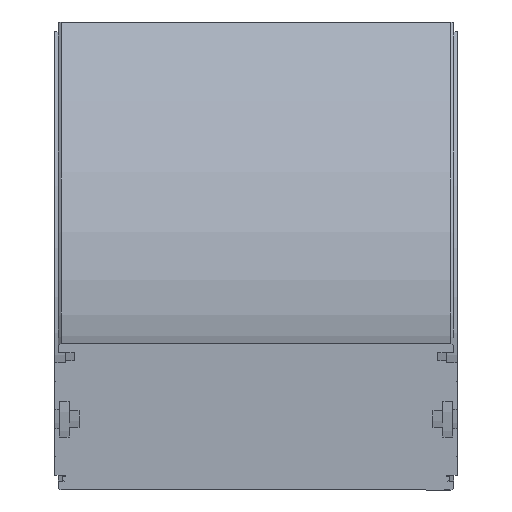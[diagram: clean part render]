
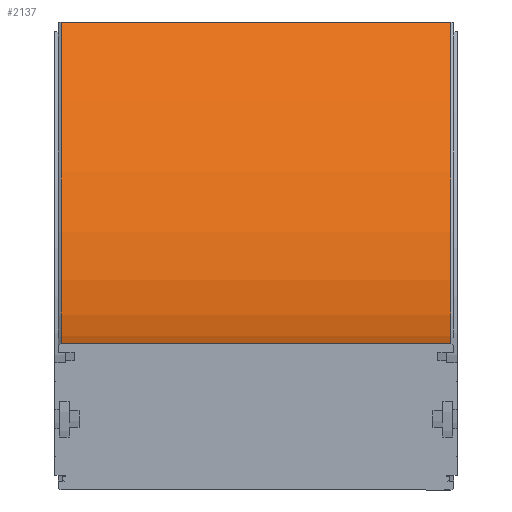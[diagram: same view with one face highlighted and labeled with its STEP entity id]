
A CAD part, front view. The second image highlights one B-rep face of the part: STEP entity #2137.
In plain terms, the highlighted cylindrical face has radius 358 mm (diameter 716 mm), a partial arc.
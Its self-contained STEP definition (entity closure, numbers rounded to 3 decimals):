
#62=CYLINDRICAL_SURFACE('',#2337,358.);
#225=CIRCLE('',#2336,358.);
#226=CIRCLE('',#2338,358.);
#336=FACE_OUTER_BOUND('',#454,.T.);
#454=EDGE_LOOP('',(#1769,#1770,#1771,#1772));
#615=LINE('',#8228,#793);
#616=LINE('',#8230,#794);
#793=VECTOR('',#2838,10.);
#794=VECTOR('',#2839,10.);
#1005=VERTEX_POINT('',#8221);
#1006=VERTEX_POINT('',#8223);
#1007=VERTEX_POINT('',#8227);
#1008=VERTEX_POINT('',#8229);
#1304=EDGE_CURVE('',#1005,#1006,#225,.T.);
#1305=EDGE_CURVE('',#1007,#1005,#615,.T.);
#1306=EDGE_CURVE('',#1008,#1006,#616,.T.);
#1307=EDGE_CURVE('',#1007,#1008,#226,.T.);
#1769=ORIENTED_EDGE('',*,*,#1305,.T.);
#1770=ORIENTED_EDGE('',*,*,#1304,.T.);
#1771=ORIENTED_EDGE('',*,*,#1306,.F.);
#1772=ORIENTED_EDGE('',*,*,#1307,.F.);
#2137=ADVANCED_FACE('',(#336),#62,.F.);
#2336=AXIS2_PLACEMENT_3D('',#8225,#2834,#2835);
#2337=AXIS2_PLACEMENT_3D('',#8226,#2836,#2837);
#2338=AXIS2_PLACEMENT_3D('',#8231,#2840,#2841);
#2834=DIRECTION('center_axis',(1.,0.,0.));
#2835=DIRECTION('ref_axis',(0.,0.,-1.));
#2836=DIRECTION('center_axis',(1.,0.,0.));
#2837=DIRECTION('ref_axis',(0.,0.,-1.));
#2838=DIRECTION('',(1.,0.,0.));
#2839=DIRECTION('',(1.,0.,0.));
#2840=DIRECTION('center_axis',(1.,0.,0.));
#2841=DIRECTION('ref_axis',(0.,0.,-1.));
#8221=CARTESIAN_POINT('',(108.5,0.,42.));
#8223=CARTESIAN_POINT('',(108.5,310.037,221.));
#8225=CARTESIAN_POINT('Origin',(108.5,0.,400.));
#8226=CARTESIAN_POINT('Origin',(-54.25,0.,400.));
#8227=CARTESIAN_POINT('',(-108.5,0.,42.));
#8228=CARTESIAN_POINT('',(-108.5,0.,42.));
#8229=CARTESIAN_POINT('',(-108.5,310.037,221.));
#8230=CARTESIAN_POINT('',(-108.5,310.037,221.));
#8231=CARTESIAN_POINT('Origin',(-108.5,0.,400.));
